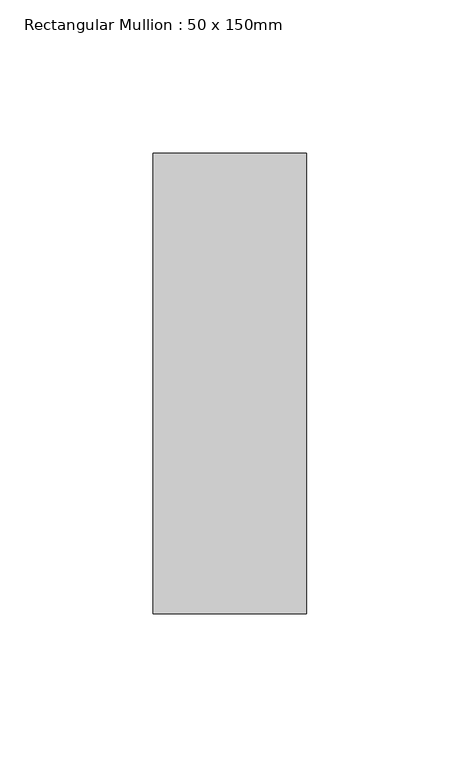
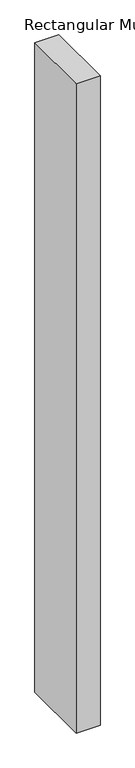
"""IFC4 building model written with IfcOpenShell, lengths in millimetres: member geometry, Rectangular Mullion : 50 x 150mm."""

from ifc_helpers import new_model, si_unit, frame, origin, place, context, project, spatial, polyline, outline, extrude, source, transform, mapped, element, save


def rectangular_mullion_50_x_150mm_26fe78b6(model_context):
    return source(origin(), model_context, "Body", "SweptSolid", [
        extrude(outline(polyline([(0.0, 75.0), (0.0, -75.0), (-50.0, -75.0), (-50.0, 75.0), (0.0, 75.0)])), frame((0.0, 0.0, -1439.8264604), z_axis=(0.0, 0.0, 1.0), x_axis=(1.0, 0.0, 0.0)), (0.0, 0.0, 1.0), 1439.8264604),
    ])


if __name__ == "__main__":
    model = new_model("IFC4")
    model_context = context("Model", 3, world=origin())
    ifc_project = project(units=[si_unit("LENGTHUNIT", "METRE", prefix="MILLI")], contexts=[model_context])
    site = spatial("IfcSite", under=ifc_project)
    building = spatial("IfcBuilding", under=site)
    placement = place(None, origin())
    rectangular_mullion_50_x_150mm_shape = rectangular_mullion_50_x_150mm_26fe78b6(model_context)
    element("IfcMember", 1, ObjectType="Rectangular Mullion : 50 x 150mm", at=placement, inside=building, context=model_context, shape_type="MappedRepresentation", body=[
        mapped(rectangular_mullion_50_x_150mm_shape, transform((0.0, 0.0, 0.0), x_axis=(1.0, 0.0, 0.0), y_axis=(0.0, 1.0, 0.0), z_axis=(0.0, 0.0, 1.0))),
    ])
    save(model, "model.ifc")
